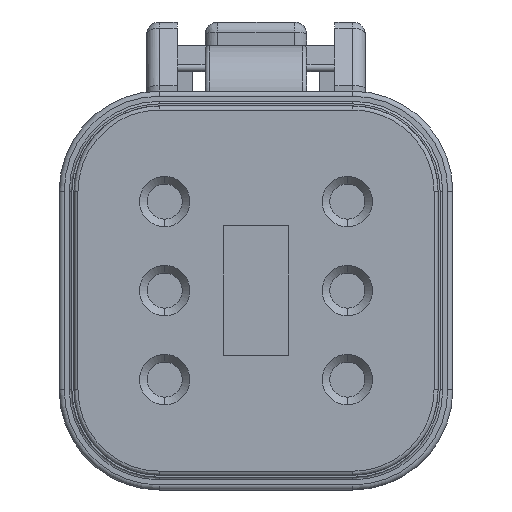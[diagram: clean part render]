
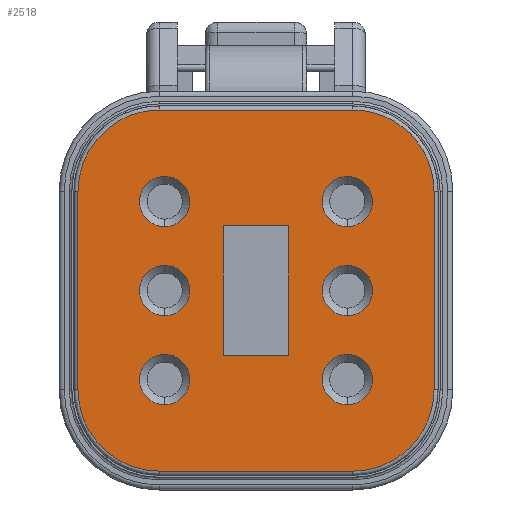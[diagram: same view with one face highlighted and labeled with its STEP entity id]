
A CAD part, front view. The second image highlights one B-rep face of the part: STEP entity #2518.
In plain terms, the highlighted planar face has unit normal (0, -1, 0).
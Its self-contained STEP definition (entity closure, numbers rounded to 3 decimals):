
#171=B_SPLINE_CURVE_WITH_KNOTS('',3,(#14441,#14442,#14443,#14444,#14445,
#14446,#14447,#14448,#14449,#14450),.UNSPECIFIED.,.F.,.F.,(4,2,2,2,4),(0.,
0.25,0.5,0.75,1.),.UNSPECIFIED.);
#172=B_SPLINE_CURVE_WITH_KNOTS('',3,(#14480,#14481,#14482,#14483,#14484,
#14485,#14486,#14487,#14488,#14489),.UNSPECIFIED.,.F.,.F.,(4,2,2,2,4),(0.,
0.25,0.5,0.75,1.),.UNSPECIFIED.);
#302=LINE('',#14136,#1243);
#306=LINE('',#14144,#1247);
#309=LINE('',#14150,#1250);
#311=LINE('',#14154,#1252);
#368=LINE('',#14397,#1309);
#376=LINE('',#14439,#1317);
#379=LINE('',#14478,#1320);
#381=LINE('',#14512,#1322);
#1243=VECTOR('',#10894,1.);
#1247=VECTOR('',#10900,1.);
#1250=VECTOR('',#10905,1.);
#1252=VECTOR('',#10911,1.);
#1309=VECTOR('',#11064,1.);
#1317=VECTOR('',#11090,1.);
#1320=VECTOR('',#11107,1.);
#1322=VECTOR('',#11115,1.);
#2342=FACE_BOUND('',#3912,.T.);
#2343=FACE_BOUND('',#3913,.T.);
#2344=FACE_BOUND('',#3914,.T.);
#2345=FACE_BOUND('',#3915,.T.);
#2346=FACE_BOUND('',#3916,.T.);
#2347=FACE_BOUND('',#3917,.T.);
#2348=FACE_BOUND('',#3918,.T.);
#2349=FACE_BOUND('',#3919,.T.);
#2518=ADVANCED_FACE('',(#2342,#2343,#2344,#2345,#2346,#2347,#2348,#2349),
#3019,.T.);
#3019=PLANE('',#9939);
#3912=EDGE_LOOP('',(#4767,#4768));
#3913=EDGE_LOOP('',(#4769,#4770));
#3914=EDGE_LOOP('',(#4771,#4772));
#3915=EDGE_LOOP('',(#4773,#4774));
#3916=EDGE_LOOP('',(#4775,#4776));
#3917=EDGE_LOOP('',(#4777,#4778));
#3918=EDGE_LOOP('',(#4779,#4780,#4781,#4782));
#3919=EDGE_LOOP('',(#4783,#4784,#4785,#4786,#4787,#4788,#4789,#4790));
#4767=ORIENTED_EDGE('',*,*,#8073,.T.);
#4768=ORIENTED_EDGE('',*,*,#8071,.T.);
#4769=ORIENTED_EDGE('',*,*,#8083,.T.);
#4770=ORIENTED_EDGE('',*,*,#8077,.T.);
#4771=ORIENTED_EDGE('',*,*,#8093,.T.);
#4772=ORIENTED_EDGE('',*,*,#8091,.T.);
#4773=ORIENTED_EDGE('',*,*,#8103,.T.);
#4774=ORIENTED_EDGE('',*,*,#8097,.T.);
#4775=ORIENTED_EDGE('',*,*,#8113,.T.);
#4776=ORIENTED_EDGE('',*,*,#8111,.T.);
#4777=ORIENTED_EDGE('',*,*,#8123,.T.);
#4778=ORIENTED_EDGE('',*,*,#8117,.T.);
#4779=ORIENTED_EDGE('',*,*,#8135,.T.);
#4780=ORIENTED_EDGE('',*,*,#8126,.T.);
#4781=ORIENTED_EDGE('',*,*,#8130,.T.);
#4782=ORIENTED_EDGE('',*,*,#8133,.T.);
#4783=ORIENTED_EDGE('',*,*,#8246,.T.);
#4784=ORIENTED_EDGE('',*,*,#8247,.T.);
#4785=ORIENTED_EDGE('',*,*,#8219,.T.);
#4786=ORIENTED_EDGE('',*,*,#8221,.T.);
#4787=ORIENTED_EDGE('',*,*,#8233,.T.);
#4788=ORIENTED_EDGE('',*,*,#8234,.T.);
#4789=ORIENTED_EDGE('',*,*,#8241,.F.);
#4790=ORIENTED_EDGE('',*,*,#8242,.F.);
#7187=VERTEX_POINT('',#13980);
#7188=VERTEX_POINT('',#13982);
#7190=VERTEX_POINT('',#13993);
#7192=VERTEX_POINT('',#13997);
#7199=VERTEX_POINT('',#14036);
#7200=VERTEX_POINT('',#14038);
#7201=VERTEX_POINT('',#14048);
#7204=VERTEX_POINT('',#14053);
#7211=VERTEX_POINT('',#14092);
#7212=VERTEX_POINT('',#14094);
#7214=VERTEX_POINT('',#14105);
#7216=VERTEX_POINT('',#14109);
#7221=VERTEX_POINT('',#14135);
#7222=VERTEX_POINT('',#14137);
#7224=VERTEX_POINT('',#14143);
#7226=VERTEX_POINT('',#14149);
#7284=VERTEX_POINT('',#14396);
#7285=VERTEX_POINT('',#14398);
#7286=VERTEX_POINT('',#14402);
#7293=VERTEX_POINT('',#14438);
#7294=VERTEX_POINT('',#14451);
#7296=VERTEX_POINT('',#14477);
#7297=VERTEX_POINT('',#14490);
#7299=VERTEX_POINT('',#14511);
#8071=EDGE_CURVE('',#7188,#7187,#9428,.T.);
#8073=EDGE_CURVE('',#7187,#7188,#9429,.T.);
#8077=EDGE_CURVE('',#7190,#7192,#9431,.T.);
#8083=EDGE_CURVE('',#7192,#7190,#9435,.T.);
#8091=EDGE_CURVE('',#7200,#7199,#9440,.T.);
#8093=EDGE_CURVE('',#7199,#7200,#9441,.T.);
#8097=EDGE_CURVE('',#7201,#7204,#9443,.T.);
#8103=EDGE_CURVE('',#7204,#7201,#9447,.T.);
#8111=EDGE_CURVE('',#7212,#7211,#9452,.T.);
#8113=EDGE_CURVE('',#7211,#7212,#9453,.T.);
#8117=EDGE_CURVE('',#7214,#7216,#9455,.T.);
#8123=EDGE_CURVE('',#7216,#7214,#9459,.T.);
#8126=EDGE_CURVE('',#7222,#7221,#302,.T.);
#8130=EDGE_CURVE('',#7221,#7224,#306,.T.);
#8133=EDGE_CURVE('',#7224,#7226,#309,.T.);
#8135=EDGE_CURVE('',#7226,#7222,#311,.T.);
#8219=EDGE_CURVE('',#7285,#7284,#368,.T.);
#8221=EDGE_CURVE('',#7284,#7286,#9482,.T.);
#8233=EDGE_CURVE('',#7286,#7293,#376,.T.);
#8234=EDGE_CURVE('',#7293,#7294,#171,.T.);
#8241=EDGE_CURVE('',#7296,#7294,#379,.T.);
#8242=EDGE_CURVE('',#7297,#7296,#172,.T.);
#8246=EDGE_CURVE('',#7297,#7299,#381,.T.);
#8247=EDGE_CURVE('',#7299,#7285,#9493,.T.);
#9428=CIRCLE('',#9834,1.257);
#9429=CIRCLE('',#9835,1.257);
#9431=CIRCLE('',#9837,1.257);
#9435=CIRCLE('',#9841,1.257);
#9440=CIRCLE('',#9846,1.257);
#9441=CIRCLE('',#9847,1.257);
#9443=CIRCLE('',#9849,1.257);
#9447=CIRCLE('',#9853,1.257);
#9452=CIRCLE('',#9858,1.257);
#9453=CIRCLE('',#9859,1.257);
#9455=CIRCLE('',#9861,1.257);
#9459=CIRCLE('',#9865,1.257);
#9482=CIRCLE('',#9920,4.064);
#9493=CIRCLE('',#9938,4.064);
#9834=AXIS2_PLACEMENT_3D('',#13981,#10785,#10786);
#9835=AXIS2_PLACEMENT_3D('',#13987,#10789,#10790);
#9837=AXIS2_PLACEMENT_3D('',#13998,#10796,#10797);
#9841=AXIS2_PLACEMENT_3D('',#14015,#10809,#10810);
#9846=AXIS2_PLACEMENT_3D('',#14037,#10825,#10826);
#9847=AXIS2_PLACEMENT_3D('',#14043,#10829,#10830);
#9849=AXIS2_PLACEMENT_3D('',#14054,#10836,#10837);
#9853=AXIS2_PLACEMENT_3D('',#14071,#10849,#10850);
#9858=AXIS2_PLACEMENT_3D('',#14093,#10865,#10866);
#9859=AXIS2_PLACEMENT_3D('',#14099,#10869,#10870);
#9861=AXIS2_PLACEMENT_3D('',#14110,#10876,#10877);
#9865=AXIS2_PLACEMENT_3D('',#14127,#10889,#10890);
#9920=AXIS2_PLACEMENT_3D('',#14401,#11069,#11070);
#9938=AXIS2_PLACEMENT_3D('',#14514,#11118,#11119);
#9939=AXIS2_PLACEMENT_3D('',#14515,#11120,#11121);
#10785=DIRECTION('',(0.,1.,0.));
#10786=DIRECTION('',(0.,0.,-1.));
#10789=DIRECTION('',(0.,1.,0.));
#10790=DIRECTION('',(0.,0.,1.));
#10796=DIRECTION('',(0.,1.,0.));
#10797=DIRECTION('',(0.,0.,1.));
#10809=DIRECTION('',(0.,1.,0.));
#10810=DIRECTION('',(0.,0.,-1.));
#10825=DIRECTION('',(0.,1.,0.));
#10826=DIRECTION('',(0.,0.,-1.));
#10829=DIRECTION('',(0.,1.,0.));
#10830=DIRECTION('',(0.,0.,1.));
#10836=DIRECTION('',(0.,1.,0.));
#10837=DIRECTION('',(0.,0.,1.));
#10849=DIRECTION('',(0.,1.,0.));
#10850=DIRECTION('',(0.,0.,-1.));
#10865=DIRECTION('',(0.,1.,0.));
#10866=DIRECTION('',(0.,0.,-1.));
#10869=DIRECTION('',(0.,1.,0.));
#10870=DIRECTION('',(0.,0.,1.));
#10876=DIRECTION('',(0.,1.,0.));
#10877=DIRECTION('',(0.,0.,1.));
#10889=DIRECTION('',(0.,1.,0.));
#10890=DIRECTION('',(0.,0.,-1.));
#10894=DIRECTION('',(0.,0.,-1.));
#10900=DIRECTION('',(-1.,0.,0.));
#10905=DIRECTION('',(0.,0.,1.));
#10911=DIRECTION('',(1.,0.,0.));
#11064=DIRECTION('',(0.,0.,-1.));
#11069=DIRECTION('',(0.,-1.,0.));
#11070=DIRECTION('',(-1.,0.,0.));
#11090=DIRECTION('',(1.,0.,0.));
#11107=DIRECTION('',(0.,0.,-1.));
#11115=DIRECTION('',(-1.,0.,0.));
#11118=DIRECTION('',(0.,-1.,0.));
#11119=DIRECTION('',(0.,0.,1.));
#11120=DIRECTION('',(0.,-1.,0.));
#11121=DIRECTION('',(1.,0.,0.));
#13980=CARTESIAN_POINT('',(-4.559,-32.207,5.702));
#13981=CARTESIAN_POINT('',(-4.559,-32.207,4.445));
#13982=CARTESIAN_POINT('',(-4.559,-32.207,3.188));
#13987=CARTESIAN_POINT('',(-4.559,-32.207,4.445));
#13993=CARTESIAN_POINT('',(4.559,-32.207,5.702));
#13997=CARTESIAN_POINT('',(4.559,-32.207,3.188));
#13998=CARTESIAN_POINT('',(4.559,-32.207,4.445));
#14015=CARTESIAN_POINT('',(4.559,-32.207,4.445));
#14036=CARTESIAN_POINT('',(-4.559,-32.207,-3.188));
#14037=CARTESIAN_POINT('',(-4.559,-32.207,-4.445));
#14038=CARTESIAN_POINT('',(-4.559,-32.207,-5.702));
#14043=CARTESIAN_POINT('',(-4.559,-32.207,-4.445));
#14048=CARTESIAN_POINT('',(4.559,-32.207,-3.188));
#14053=CARTESIAN_POINT('',(4.559,-32.207,-5.702));
#14054=CARTESIAN_POINT('',(4.559,-32.207,-4.445));
#14071=CARTESIAN_POINT('',(4.559,-32.207,-4.445));
#14092=CARTESIAN_POINT('',(-4.559,-32.207,1.257));
#14093=CARTESIAN_POINT('',(-4.559,-32.207,0.));
#14094=CARTESIAN_POINT('',(-4.559,-32.207,-1.257));
#14099=CARTESIAN_POINT('',(-4.559,-32.207,0.));
#14105=CARTESIAN_POINT('',(4.559,-32.207,1.257));
#14109=CARTESIAN_POINT('',(4.559,-32.207,-1.257));
#14110=CARTESIAN_POINT('',(4.559,-32.207,0.));
#14127=CARTESIAN_POINT('',(4.559,-32.207,0.));
#14135=CARTESIAN_POINT('',(1.626,-32.207,-3.239));
#14136=CARTESIAN_POINT('',(1.626,-32.207,3.239));
#14137=CARTESIAN_POINT('',(1.626,-32.207,3.239));
#14143=CARTESIAN_POINT('',(-1.626,-32.207,-3.239));
#14144=CARTESIAN_POINT('',(1.626,-32.207,-3.239));
#14149=CARTESIAN_POINT('',(-1.626,-32.207,3.239));
#14150=CARTESIAN_POINT('',(-1.626,-32.207,-3.239));
#14154=CARTESIAN_POINT('',(-1.626,-32.207,3.239));
#14396=CARTESIAN_POINT('',(-8.89,-32.207,-4.953));
#14397=CARTESIAN_POINT('',(-8.89,-32.207,4.953));
#14398=CARTESIAN_POINT('',(-8.89,-32.207,4.953));
#14401=CARTESIAN_POINT('',(-4.826,-32.207,-4.953));
#14402=CARTESIAN_POINT('',(-4.826,-32.207,-9.017));
#14438=CARTESIAN_POINT('',(4.826,-32.207,-9.017));
#14439=CARTESIAN_POINT('',(-4.826,-32.207,-9.017));
#14441=CARTESIAN_POINT('',(4.826,-32.207,-9.017));
#14442=CARTESIAN_POINT('',(5.365,-32.207,-9.017));
#14443=CARTESIAN_POINT('',(5.884,-32.207,-8.914));
#14444=CARTESIAN_POINT('',(6.879,-32.207,-8.502));
#14445=CARTESIAN_POINT('',(7.319,-32.207,-8.207));
#14446=CARTESIAN_POINT('',(8.081,-32.207,-7.446));
#14447=CARTESIAN_POINT('',(8.374,-32.207,-7.006));
#14448=CARTESIAN_POINT('',(8.787,-32.207,-6.011));
#14449=CARTESIAN_POINT('',(8.89,-32.207,-5.492));
#14450=CARTESIAN_POINT('',(8.89,-32.207,-4.953));
#14451=CARTESIAN_POINT('',(8.89,-32.207,-4.953));
#14477=CARTESIAN_POINT('',(8.89,-32.207,4.953));
#14478=CARTESIAN_POINT('',(8.89,-32.207,4.953));
#14480=CARTESIAN_POINT('',(4.826,-32.207,9.017));
#14481=CARTESIAN_POINT('',(5.365,-32.207,9.017));
#14482=CARTESIAN_POINT('',(5.884,-32.207,8.914));
#14483=CARTESIAN_POINT('',(6.879,-32.207,8.501));
#14484=CARTESIAN_POINT('',(7.319,-32.207,8.208));
#14485=CARTESIAN_POINT('',(8.08,-32.207,7.446));
#14486=CARTESIAN_POINT('',(8.375,-32.207,7.006));
#14487=CARTESIAN_POINT('',(8.787,-32.207,6.011));
#14488=CARTESIAN_POINT('',(8.89,-32.207,5.492));
#14489=CARTESIAN_POINT('',(8.89,-32.207,4.953));
#14490=CARTESIAN_POINT('',(4.826,-32.207,9.017));
#14511=CARTESIAN_POINT('',(-4.826,-32.207,9.017));
#14512=CARTESIAN_POINT('',(4.826,-32.207,9.017));
#14514=CARTESIAN_POINT('',(-4.826,-32.207,4.953));
#14515=CARTESIAN_POINT('',(-9.246,-32.207,-9.378));
